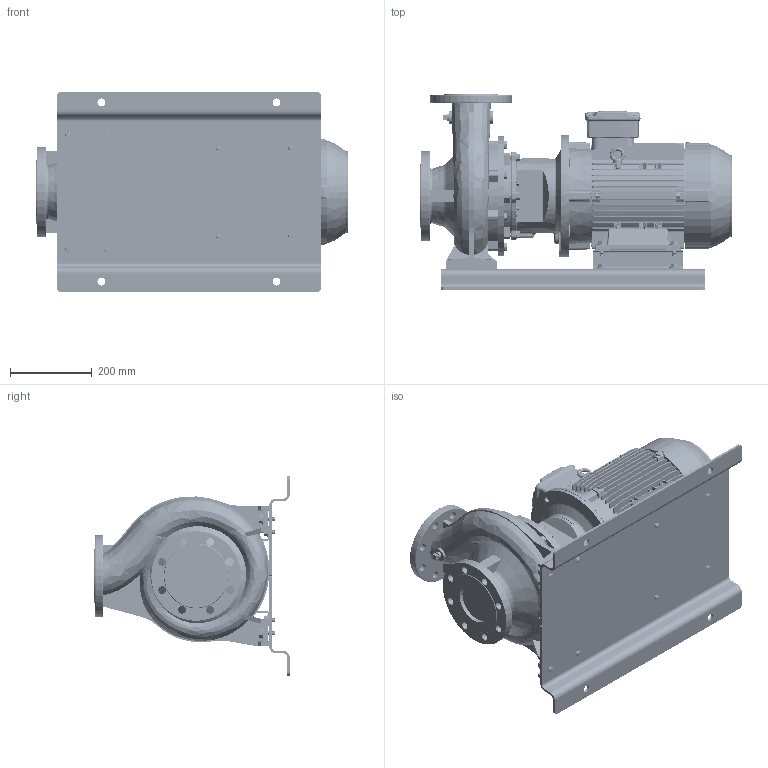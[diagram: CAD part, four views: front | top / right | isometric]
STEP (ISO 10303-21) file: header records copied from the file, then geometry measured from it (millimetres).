
FILE_DESCRIPTION (( 'STEP AP214' ), '1' );
FILE_NAME ('GSD4 80-200_7.5_(132M)_W21_BP.STEP', '2026-05-08T06:45:46', ( '' ), ( '' ), 'SwSTEP 2.0', 'SolidWorks 2024', '' );
FILE_SCHEMA (( 'AUTOMOTIVE_DESIGN' ));
Length unit declared in the file: millimetre
Products named in the file (13): Parametric bolt_SFT-A253B; GSD4 80-200_7.5_(132M)_W21_BP; N5S5 GSDA-557M F1-1832920M-00; 80-200-132M_ﾃﾞﾌｫﾙﾄ; Parametric Flat Washer_M12; Parametric bolt_SFT-A299B; Parametric bolt and washer_SFT-A299B; Parametric bolt_SFT-A249B; 178 x 48 - CGSDA-5242; Parametric Flat Washer_M10; 132M ALIE3_W21T_B35; Parametric bolt and washer_SFT-A253B; Parametric bolt and washer_SFT-A249B
Assembly tree (23 placements, depth 3):
  GSD4 80-200_7.5_(132M)_W21_BP
    80-200-132M_ﾃﾞﾌｫﾙﾄ
    N5S5 GSDA-557M F1-1832920M-00
    178 x 48 - CGSDA-5242  x2
    Parametric bolt and washer_SFT-A249B  x4
      Parametric bolt_SFT-A249B
      Parametric Flat Washer_M10
    Parametric bolt and washer_SFT-A253B  x4
      Parametric bolt_SFT-A253B
      Parametric Flat Washer_M10
    Parametric bolt and washer_SFT-A299B  x4
      Parametric bolt_SFT-A299B
      Parametric Flat Washer_M12
    132M ALIE3_W21T_B35
Bounding box: 764.8 x 480 x 490 mm (x, y, z)
Volume: 36873405.5 mm3; surface area: 2910321.6 mm2
Topology: 33 solids, 33 shells, 5282 faces, 13759 edges, 8885 vertices
Faces by surface type: plane 3006, cylinder 1366, torus 335, bspline 275, cone 268, sphere 32
Entity records: 187474 total; most frequent: CARTESIAN_POINT 73025, ORIENTED_EDGE 24758, DIRECTION 22157, EDGE_CURVE 12379, LINE 8017, VECTOR 8017, VERTEX_POINT 8005, AXIS2_PLACEMENT_3D 7070
